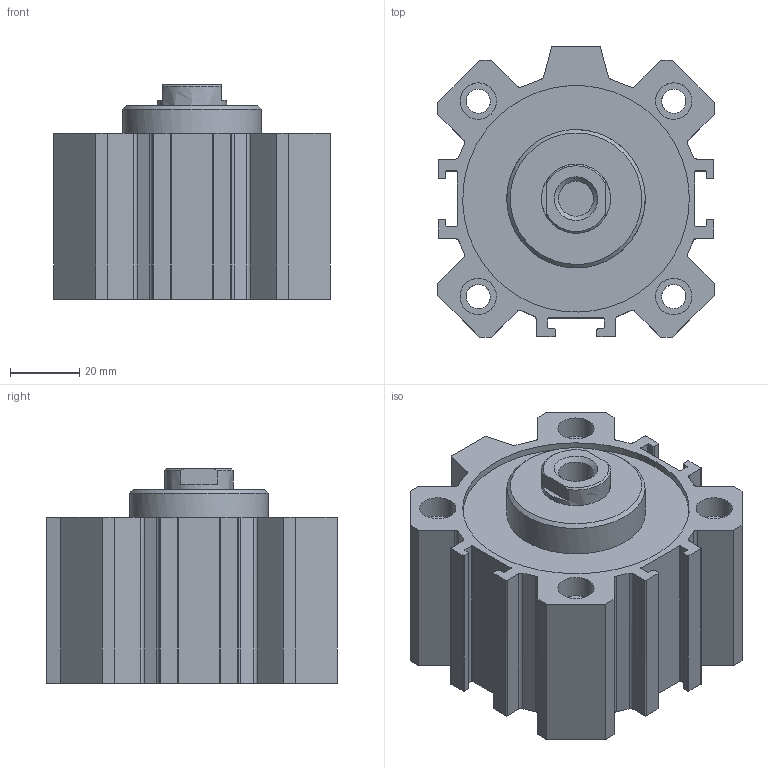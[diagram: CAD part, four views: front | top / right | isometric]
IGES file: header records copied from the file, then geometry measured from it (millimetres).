
Global section: file name: 1511_63_0005; native system: Autodesk Inventor 2014; preprocessor: unknown; author: A. Manieri; date: 20160824.140026; units: millimetre
Bounding box: 80 x 84 x 62 mm (x, y, z)
Volume: 234274.1 mm3; surface area: 59835.4 mm2
Topology: 2 solids, 2 shells, 165 faces, 443 edges, 300 vertices
Faces by surface type: bspline 165
